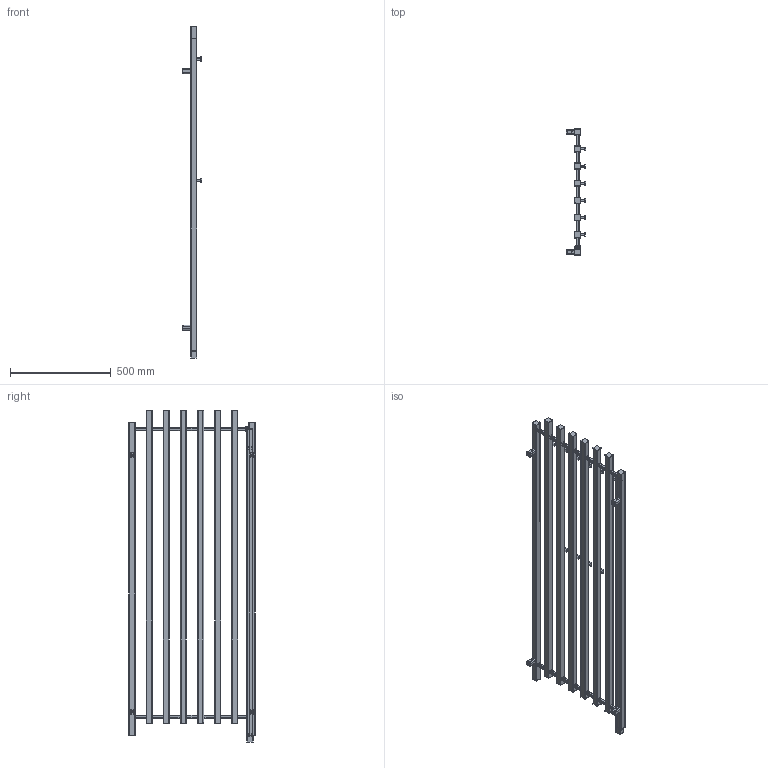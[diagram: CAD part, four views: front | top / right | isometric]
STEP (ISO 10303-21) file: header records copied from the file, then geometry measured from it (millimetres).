
FILE_DESCRIPTION( ( 'Unknown' ), '1' );
FILE_NAME( 'D:/Alplast sp. j/Witryna zespoBu - Projekty/Archiwum/Grzejniki Archiwum/Projekty/DESIGN PROGRAM/TUBO K/TUBO 3 K.stp', 'Unknown', ( 'Unknown' ), ( 'Unknown' ), 'PSStep 10.1', 'Unknown', ' ' );
FILE_SCHEMA( ( 'AUTOMOTIVE_DESIGN { 1 0 10303 214 1 1 1 1 }' ) );
Length unit declared in the file: millimetre
Products named in the file (13): Assem1; Mocowanie kwadratowe L40; Wieszak kwadrat; profil z wciêciami; blacha z fasol¹ kwadrat; MOCOWANIE L40-03; wieszak 02; wieszak 01; TUBO 3 ³¹cznik górny 20x20; RURA BOCZNA LEWA PRAWA  30x30 1555  ; RURA ŒRODKOWA  LEWA PRAWA  30x30 1555  ; zaslepka kwadrat pe³na; zaslepka kwadrat otwor
Bounding box: 94.25 x 625 x 1646.12 mm (x, y, z)
Volume: 2841000.5 mm3; surface area: 3705153.9 mm2
Topology: 73 solids, 73 shells, 1541 faces, 4428 edges, 2904 vertices
Faces by surface type: plane 869, cylinder 660, torus 6, cone 6
Full cylindrical faces by diameter (mm): 4.917 x6, 10 x72, 16 x6, 18 x6, 18.631 x3, 23 x3
Entity records: 12976 total; most frequent: CARTESIAN_POINT 2788, DIRECTION 1640, ORIENTED_EDGE 1632, EDGE_CURVE 816, AXIS2_PLACEMENT_3D 600, VERTEX_POINT 548, LINE 440, VECTOR 440
